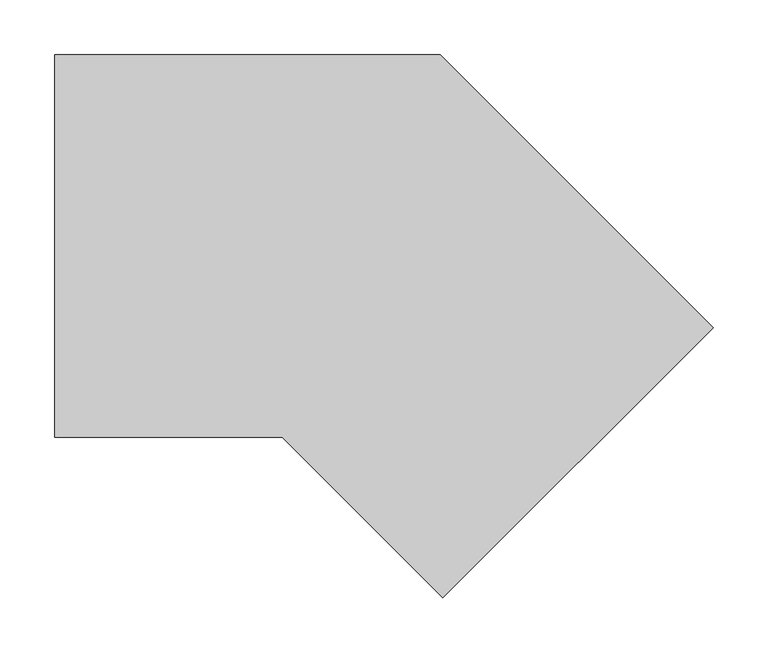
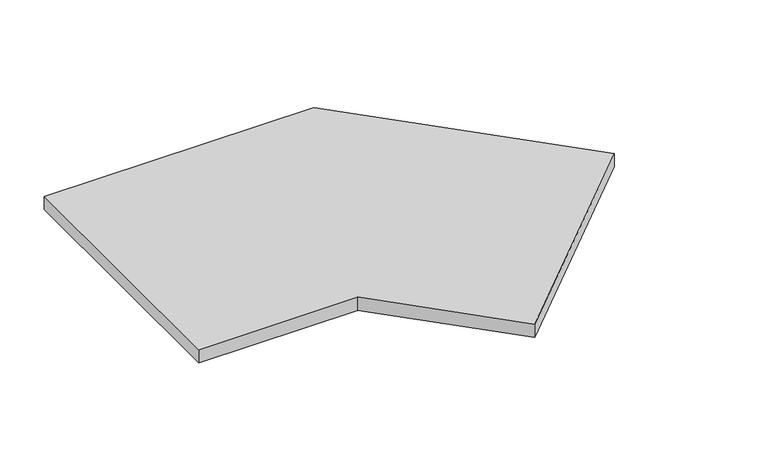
"""IFC4 building model written with IfcOpenShell, lengths in millimetres: proxy geometry, TECHNO_Решетка_KVU : Решетка рулонная алюминиевая/ Белый RAL 9016."""

from ifc_helpers import new_model, si_unit, frame, origin, place, context, project, spatial, polyline, outline, extrude, source, transform, mapped, element, save


def mechanical_equipment_313bb276(model_context):
    return source(origin(), model_context, "Body", "SweptSolid", [
        extrude(outline(polyline([(319.8333255, -74.0430083), (74.0430083, -319.8333255), (-71.9903171, -173.8), (-278.5126266, -173.8), (-278.5126266, 173.8), (71.9903171, 173.8), (319.8333255, -74.0430083)])), frame((0.0, 0.0, -18.1), z_axis=(0.0, 0.0, 1.0), x_axis=(1.0, 0.0, 0.0)), (0.0, 0.0, 1.0), 18.1),
    ])


if __name__ == "__main__":
    model = new_model("IFC4")
    model_context = context("Model", 3, world=origin())
    ifc_project = project(units=[si_unit("LENGTHUNIT", "METRE", prefix="MILLI")], contexts=[model_context])
    site = spatial("IfcSite", under=ifc_project)
    building = spatial("IfcBuilding", under=site)
    placement = place(None, origin())
    mechanical_equipment_shape = mechanical_equipment_313bb276(model_context)
    element("IfcBuildingElementProxy", 1, Name="TECHNO_Решетка_KVU : Решетка рулонная алюминиевая/ Белый RAL 9016", ObjectType="TECHNO_Решетка_KVU : Решетка рулонная алюминиевая/ Белый RAL 9016", at=placement, inside=building, context=model_context, shape_type="MappedRepresentation", body=[
        mapped(mechanical_equipment_shape, transform((0.0, 0.0, 0.0), x_axis=(1.0, 0.0, 0.0), y_axis=(0.0, 1.0, 0.0), z_axis=(0.0, 0.0, 1.0))),
    ])
    save(model, "model.ifc")
